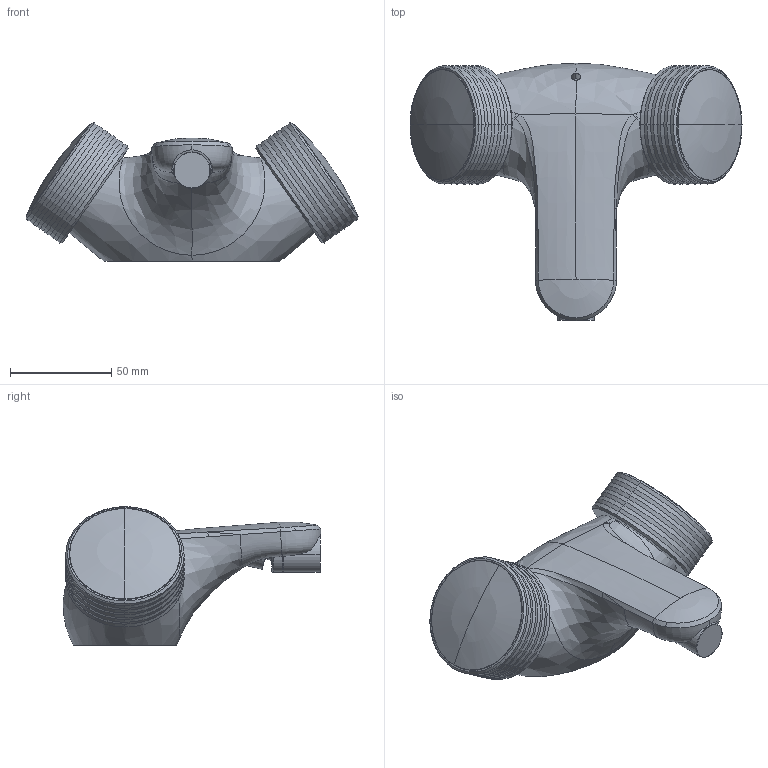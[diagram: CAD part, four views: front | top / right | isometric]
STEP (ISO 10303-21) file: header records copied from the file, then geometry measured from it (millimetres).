
FILE_DESCRIPTION((''),'2;1');
FILE_NAME('F5602_FILE_3D','2015-04-23T',('ivanv'),(''),'PRO/ENGINEER BY PARAMETRIC TECHNOLOGY CORPORATION, 2012130','PRO/ENGINEER BY PARAMETRIC TECHNOLOGY CORPORATION, 2012130','');
FILE_SCHEMA(('CONFIG_CONTROL_DESIGN'));
Length unit declared in the file: millimetre
Products named in the file (1): F5602_FILE_3D
Bounding box: 163.8 x 127.02 x 68.45 mm (x, y, z)
Volume: 228588.7 mm3; surface area: 74330.5 mm2
Topology: 1 solids, 3 shells, 363 faces, 847 edges, 494 vertices
Faces by surface type: cylinder 96, bspline 95, cone 75, plane 52, torus 25, sphere 16, revolution 4
Entity records: 21104 total; most frequent: CARTESIAN_POINT 13583, ORIENTED_EDGE 1666, DIRECTION 1384, EDGE_CURVE 833, AXIS2_PLACEMENT_3D 578, VERTEX_POINT 494, EDGE_LOOP 385, FACE_OUTER_BOUND 363
